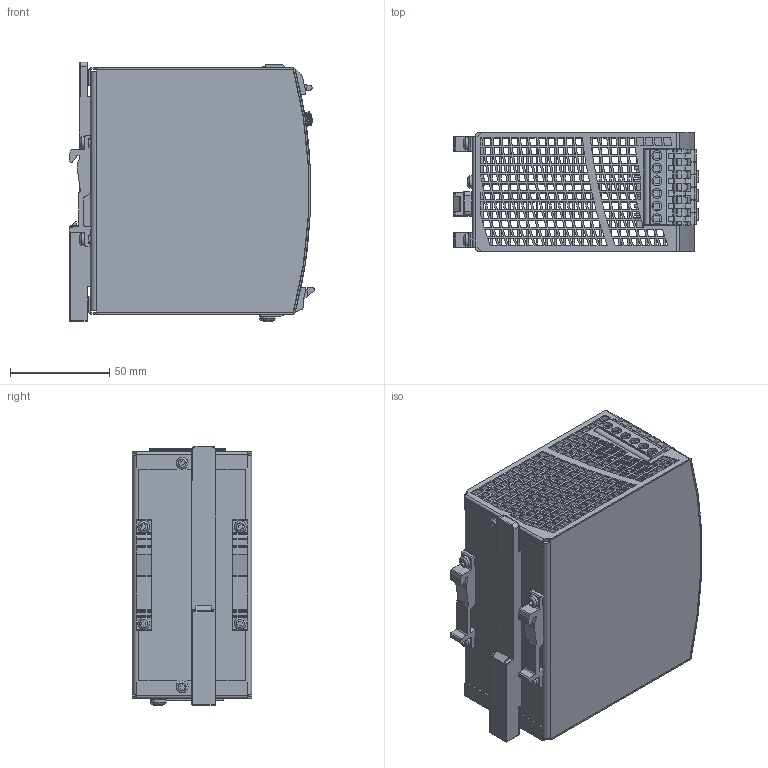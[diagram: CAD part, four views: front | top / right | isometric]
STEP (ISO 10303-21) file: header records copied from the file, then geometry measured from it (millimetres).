
FILE_DESCRIPTION(/* description */ (''),/* implementation_level */ '2;1');
FILE_NAME(/* name */ 'H:\My Documents\POOLP2\Desktop\md3_qs10_241-d1.stp',/* time_stamp */ '2021-06-23T09:18:02+02:00',/* author */ ('rahns'),/* organization */ (''),/* preprocessor_version */ 'ST-DEVELOPER v18.1',/* originating_system */ 'Autodesk Inventor 2020',/* authorisation */ '');
FILE_SCHEMA (('AUTOMOTIVE_DESIGN { 1 0 10303 214 3 1 1 }'));
Products named in the file (13): 339.60; HOUSING BODY 339.00; MKT_T HOLDER1; MKT_SLIDER; HOUSING COVER 339.60; MKT_SCREW 3x6; MKT_POTI COVER; MKT_LED GN; MKT_LED RD; MKT_LP3SW-95; MKT_LP6SW-96; MKT_SCREW 4x8; MKT_WASHER 4
Assembly tree (18 placements, depth 2):
  339.60
    HOUSING BODY 339.00
    MKT_T HOLDER1  x2
    MKT_SLIDER
    MKT_SCREW 3x6  x6
    HOUSING COVER 339.60
    MKT_POTI COVER
    MKT_LED GN
    MKT_LED RD
    MKT_LP3SW-95
    MKT_LP6SW-96
    MKT_SCREW 4x8
    MKT_WASHER 4
Bounding box: 123.35 x 60 x 130.77 mm (x, y, z)
Volume: 93419 mm3; surface area: 119717.8 mm2
Topology: 19 solids, 19 shells, 3247 faces, 9275 edges, 6178 vertices
Faces by surface type: plane 2547, bspline 323, cylinder 319, torus 25, cone 20, sphere 13
Full cylindrical faces by diameter (mm): 1.25 x9, 2.45 x2, 3 x6, 3.1 x4, 3.621 x1, 4 x1, 4.355 x1, 4.5 x1, 4.6 x2, 5 x6, 5.5 x3, 6 x6
Entity records: 182688 total; most frequent: CARTESIAN_POINT 101268, ORIENTED_EDGE 17774, DIRECTION 14211, EDGE_CURVE 8887, LINE 7201, VECTOR 7201, VERTEX_POINT 5916, EDGE_LOOP 4089
